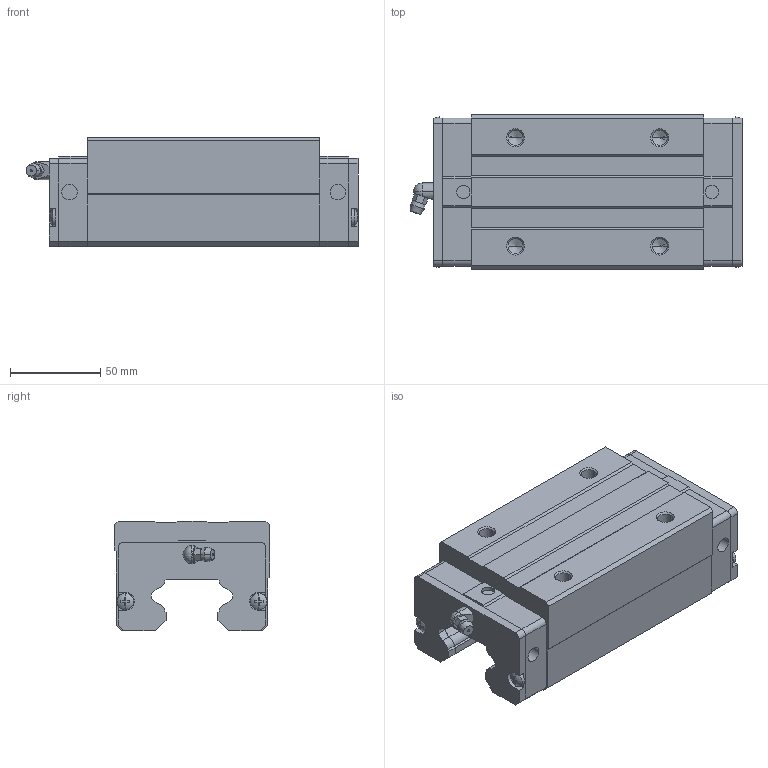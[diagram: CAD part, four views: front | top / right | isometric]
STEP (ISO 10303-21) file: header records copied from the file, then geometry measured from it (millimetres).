
FILE_DESCRIPTION(('starvars output'),'2;1');
FILE_NAME('cv20190625223700000108755.stp','22:37:00 2019/06/25',( 'Thomas Industrial Network Germany GmbH'),( 'Thomas Industrial Network Germany GmbH'),'unknown preprocess','ACIS' ,'unknown authorization');
FILE_SCHEMA(('CONFIG_CONTROL_DESIGN {UNKNOWN IMPLEMENTATION LEVEL}'));
Length unit declared in the file: millimetre
Products named in the file (10): PRODUCT_ID_1; PRODUCT_ID_2; PRODUCT_ID_3; PRODUCT_ID_4; PRODUCT_ID_5; PRODUCT_ID_6; PRODUCT_ID_7; PRODUCT_ID_8; PRODUCT_ID_9; PRODUCT_ID_10
Bounding box: 184.1 x 86 x 60.8 mm (x, y, z)
Volume: 651575.4 mm3; surface area: 97537.8 mm2
Topology: 10 solids, 10 shells, 400 faces, 1017 edges, 643 vertices
Faces by surface type: plane 244, cylinder 74, cone 70, sphere 12
Entity records: 11534 total; most frequent: ORIENTED_EDGE 2010, CARTESIAN_POINT 1899, DIRECTION 1587, EDGE_CURVE 1005, VERTEX_POINT 643, VECTOR 637, LINE 637, AXIS2_PLACEMENT_3D 475
